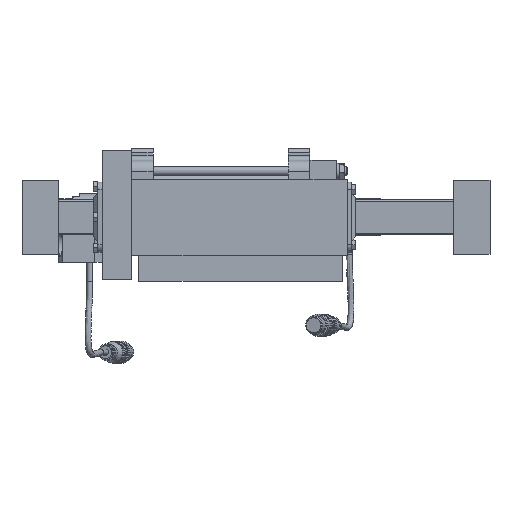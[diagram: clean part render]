
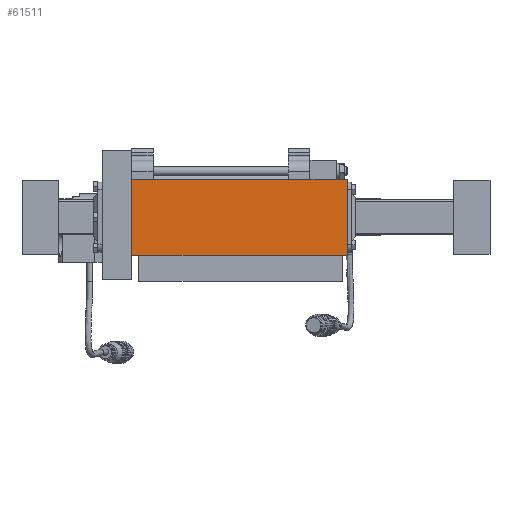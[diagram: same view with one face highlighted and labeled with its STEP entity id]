
A CAD part, left-side view. The second image highlights one B-rep face of the part: STEP entity #61511.
In plain terms, the highlighted planar face has unit normal (-1, 0, 0).
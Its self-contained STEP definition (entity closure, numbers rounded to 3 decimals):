
#3811=PLANE('',#65831);
#5992=FACE_OUTER_BOUND('',#9696,.T.);
#9696=EDGE_LOOP('',(#42338,#42339,#42340,#42341));
#13659=LINE('',#88225,#18449);
#13661=LINE('',#88229,#18451);
#13662=LINE('',#88231,#18452);
#13663=LINE('',#88232,#18453);
#18449=VECTOR('',#72875,10.);
#18451=VECTOR('',#72879,10.);
#18452=VECTOR('',#72880,10.);
#18453=VECTOR('',#72881,10.);
#25909=VERTEX_POINT('',#88222);
#25910=VERTEX_POINT('',#88224);
#25911=VERTEX_POINT('',#88228);
#25912=VERTEX_POINT('',#88230);
#32192=EDGE_CURVE('',#25910,#25909,#13659,.T.);
#32194=EDGE_CURVE('',#25909,#25911,#13661,.T.);
#32195=EDGE_CURVE('',#25912,#25911,#13662,.T.);
#32196=EDGE_CURVE('',#25912,#25910,#13663,.T.);
#42338=ORIENTED_EDGE('',*,*,#32194,.T.);
#42339=ORIENTED_EDGE('',*,*,#32195,.F.);
#42340=ORIENTED_EDGE('',*,*,#32196,.T.);
#42341=ORIENTED_EDGE('',*,*,#32192,.T.);
#61511=ADVANCED_FACE('',(#5992),#3811,.T.);
#65831=AXIS2_PLACEMENT_3D('',#88227,#72877,#72878);
#72875=DIRECTION('',(0.,-1.,0.));
#72877=DIRECTION('center_axis',(-1.,0.,0.));
#72878=DIRECTION('ref_axis',(0.,0.,
-1.));
#72879=DIRECTION('',(0.,0.,1.));
#72880=DIRECTION('',(0.,-1.,0.));
#72881=DIRECTION('',(0.,0.,-1.));
#88222=CARTESIAN_POINT('',(-97.,-73.,9.));
#88224=CARTESIAN_POINT('',(-97.,75.,9.));
#88225=CARTESIAN_POINT('',(-97.,75.,9.));
#88227=CARTESIAN_POINT('Origin',(-97.,75.,9.));
#88228=CARTESIAN_POINT('',(-97.,-73.,61.));
#88229=CARTESIAN_POINT('',(-97.,-73.,61.));
#88230=CARTESIAN_POINT('',(-97.,75.,61.));
#88231=CARTESIAN_POINT('',(-97.,75.,61.));
#88232=CARTESIAN_POINT('',(-97.,75.,61.));
